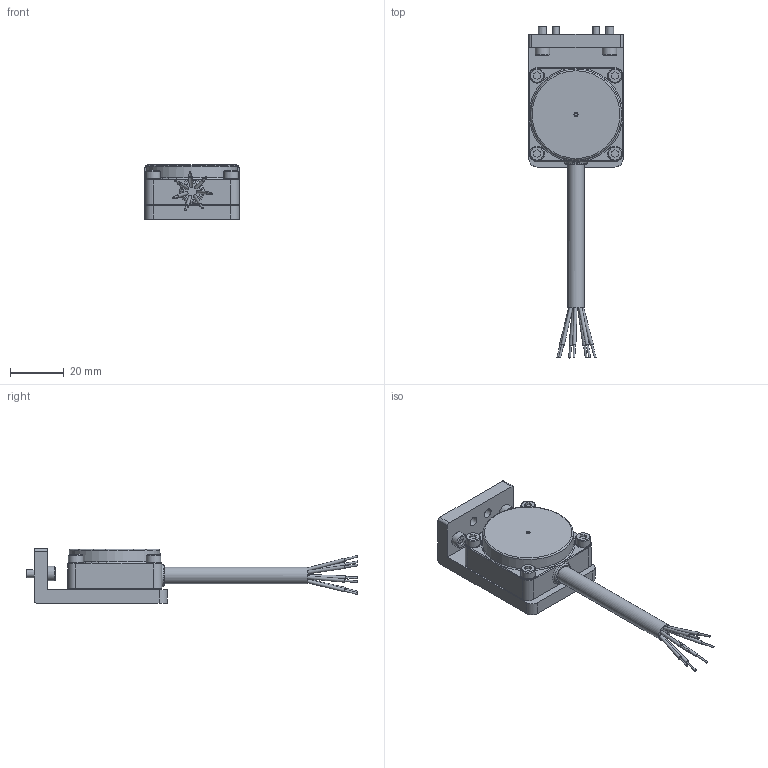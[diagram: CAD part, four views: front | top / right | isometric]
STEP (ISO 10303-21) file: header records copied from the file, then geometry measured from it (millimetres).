
FILE_DESCRIPTION(('STEP AP214'),'1');
FILE_NAME('KHB-7HS-NN4,NP4_ver1.stp','2026-04-27T01:35:54',(' '),(' '),'Spatial InterOp 3D',' ',' ');
FILE_SCHEMA(('AUTOMOTIVE_DESIGN { 1 0 10303 214 1 1 1 1 }'));
Length unit declared in the file: millimetre
Products named in the file (1): KHB-7HS-NN4,NP4_ver1
Bounding box: 35 x 123.57 x 20.2 mm (x, y, z)
Volume: 28958.1 mm3; surface area: 12760.3 mm2
Topology: 1 solids, 7 shells, 264 faces, 597 edges, 394 vertices
Faces by surface type: plane 120, cylinder 81, bspline 21, torus 21, cone 21
Full cylindrical faces by diameter (mm): 0.7 x7, 1.2 x7, 2.5 x10, 3 x4, 3.3 x4, 3.5 x4, 5 x4, 5.41 x6, 5.5 x4, 6.3 x1
Entity records: 9298 total; most frequent: CARTESIAN_POINT 1641, DIRECTION 1195, ORIENTED_EDGE 978, AXIS2_PLACEMENT_3D 498, EDGE_CURVE 489, EDGE_LOOP 405, VERTEX_POINT 362, FACE_OUTER_BOUND 319
